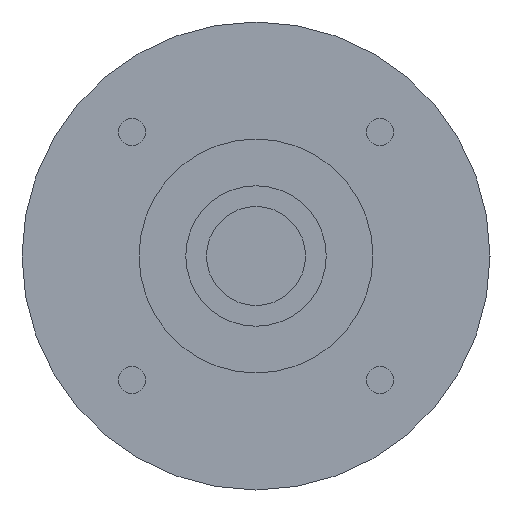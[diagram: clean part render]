
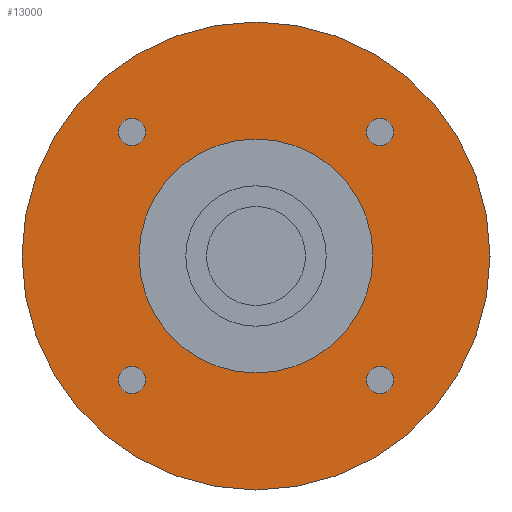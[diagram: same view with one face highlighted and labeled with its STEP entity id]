
A CAD part, left-side view. The second image highlights one B-rep face of the part: STEP entity #13000.
In plain terms, the highlighted planar face has unit normal (-1, 0, 0) as drawn and (0, 0, -1) by its records, which use the part's own axes.
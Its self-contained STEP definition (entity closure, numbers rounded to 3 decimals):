
#9080=CARTESIAN_POINT('',(-30.,0.,-39.));
#9090=VERTEX_POINT('',#9080);
#9180=CARTESIAN_POINT('',(30.,0.,-39.));
#9190=VERTEX_POINT('',#9180);
#9220=CARTESIAN_POINT('',(0.,0.,-39.
));
#9230=DIRECTION('',(0.,0.,1.));
#9240=DIRECTION('',(1.,0.,0.));
#9250=AXIS2_PLACEMENT_3D('',#9220,#9230,#9240);
#9260=CIRCLE('',#9250,30.);
#9270=CARTESIAN_POINT('',(0.,-30.,-39.));
#9280=VERTEX_POINT('',#9270);
#9290=EDGE_CURVE('',#9280,#9190,#9260,.T.);
#9310=EDGE_CURVE('',#9090,#9280,#9260,.T.);
#11970=CARTESIAN_POINT('',(-15.91,-14.16,-39.));
#11980=VERTEX_POINT('',#11970);
#12010=CARTESIAN_POINT('',(-15.91,-15.91,-39.));
#12020=DIRECTION('',(0.,0.,-1.));
#12030=DIRECTION('',(0.,-1.,0.));
#12040=AXIS2_PLACEMENT_3D('',#12010,#12020,#12030);
#12050=CIRCLE('',#12040,1.75);
#12060=CARTESIAN_POINT('',(-15.91,-17.66,-39.));
#12070=VERTEX_POINT('',#12060);
#12080=EDGE_CURVE('',#12070,#11980,#12050,.T.);
#12200=CARTESIAN_POINT('',(0.,0.,
-39.));
#12210=DIRECTION('',(0.,0.,-1.));
#12220=DIRECTION('',(1.,0.,0.));
#12230=AXIS2_PLACEMENT_3D('',#12200,#12210,#12220);
#12240=PLANE('',#12230);
#12250=CARTESIAN_POINT('',(15.91,15.91,-39.));
#12260=DIRECTION('',(0.,0.,-1.));
#12270=DIRECTION('',(0.,1.,0.));
#12280=AXIS2_PLACEMENT_3D('',#12250,#12260,#12270);
#12290=CIRCLE('',#12280,1.75);
#12300=CARTESIAN_POINT('',(15.91,17.66,-39.));
#12310=VERTEX_POINT('',#12300);
#12320=CARTESIAN_POINT('',(15.91,14.16,-39.));
#12330=VERTEX_POINT('',#12320);
#12340=EDGE_CURVE('',#12310,#12330,#12290,.T.);
#12350=ORIENTED_EDGE('',*,*,#12340,.F.);
#12360=EDGE_CURVE('',#12330,#12310,#12290,.T.);
#12370=ORIENTED_EDGE('',*,*,#12360,.F.);
#12380=EDGE_LOOP('',(#12370,#12350));
#12390=FACE_BOUND('',#12380,.T.);
#12400=CARTESIAN_POINT('',(-15.91,15.91,-39.));
#12410=DIRECTION('',(0.,0.,-1.));
#12420=DIRECTION('',(-1.,0.,0.));
#12430=AXIS2_PLACEMENT_3D('',#12400,#12410,#12420);
#12440=CIRCLE('',#12430,1.75);
#12450=CARTESIAN_POINT('',(-17.66,15.91,-39.));
#12460=VERTEX_POINT('',#12450);
#12470=CARTESIAN_POINT('',(-14.16,15.91,-39.));
#12480=VERTEX_POINT('',#12470);
#12490=EDGE_CURVE('',#12460,#12480,#12440,.T.);
#12500=ORIENTED_EDGE('',*,*,#12490,.F.);
#12510=EDGE_CURVE('',#12480,#12460,#12440,.T.);
#12520=ORIENTED_EDGE('',*,*,#12510,.F.);
#12530=EDGE_LOOP('',(#12520,#12500));
#12540=FACE_BOUND('',#12530,.T.);
#12550=ORIENTED_EDGE('',*,*,#12080,.F.);
#12560=EDGE_CURVE('',#11980,#12070,#12050,.T.);
#12570=ORIENTED_EDGE('',*,*,#12560,.F.);
#12580=EDGE_LOOP('',(#12570,#12550));
#12590=FACE_BOUND('',#12580,.T.);
#12600=CARTESIAN_POINT('',(0.,0.,
-39.));
#12610=DIRECTION('',(0.,0.,1.));
#12620=DIRECTION('',(0.,1.,0.));
#12630=AXIS2_PLACEMENT_3D('',#12600,#12610,#12620);
#12640=CIRCLE('',#12630,15.);
#12650=CARTESIAN_POINT('',(-15.,0.,-39.));
#12660=VERTEX_POINT('',#12650);
#12670=CARTESIAN_POINT('',(15.,0.,-39.));
#12680=VERTEX_POINT('',#12670);
#12690=EDGE_CURVE('',#12660,#12680,#12640,.T.);
#12700=ORIENTED_EDGE('',*,*,#12690,.T.);
#12710=CARTESIAN_POINT('',(0.,15.,-39.));
#12720=VERTEX_POINT('',#12710);
#12730=EDGE_CURVE('',#12720,#12660,#12640,.T.);
#12740=ORIENTED_EDGE('',*,*,#12730,.T.);
#12750=EDGE_CURVE('',#12680,#12720,#12640,.T.);
#12760=ORIENTED_EDGE('',*,*,#12750,.T.);
#12770=EDGE_LOOP('',(#12760,#12740,#12700));
#12780=FACE_BOUND('',#12770,.T.);
#12790=CARTESIAN_POINT('',(15.91,-15.91,-39.));
#12800=DIRECTION('',(0.,0.,-1.));
#12810=DIRECTION('',(1.,0.,0.));
#12820=AXIS2_PLACEMENT_3D('',#12790,#12800,#12810);
#12830=CIRCLE('',#12820,1.75);
#12840=CARTESIAN_POINT('',(17.66,-15.91,-39.));
#12850=VERTEX_POINT('',#12840);
#12860=CARTESIAN_POINT('',(14.16,-15.91,-39.));
#12870=VERTEX_POINT('',#12860);
#12880=EDGE_CURVE('',#12850,#12870,#12830,.T.);
#12890=ORIENTED_EDGE('',*,*,#12880,.F.);
#12900=EDGE_CURVE('',#12870,#12850,#12830,.T.);
#12910=ORIENTED_EDGE('',*,*,#12900,.F.);
#12920=EDGE_LOOP('',(#12910,#12890));
#12930=FACE_BOUND('',#12920,.T.);
#12940=ORIENTED_EDGE('',*,*,#9290,.F.);
#12950=EDGE_CURVE('',#9190,#9090,#9260,.T.);
#12960=ORIENTED_EDGE('',*,*,#12950,.F.);
#12970=ORIENTED_EDGE('',*,*,#9310,.F.);
#12980=EDGE_LOOP('',(#12970,#12960,#12940));
#12990=FACE_OUTER_BOUND('',#12980,.T.);
#13000=ADVANCED_FACE('',(#12390,#12540,#12590,#12780,#12930,#12990),
#12240,.T.);
